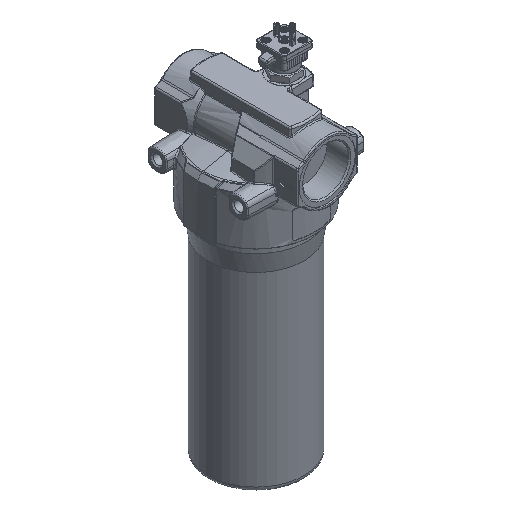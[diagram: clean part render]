
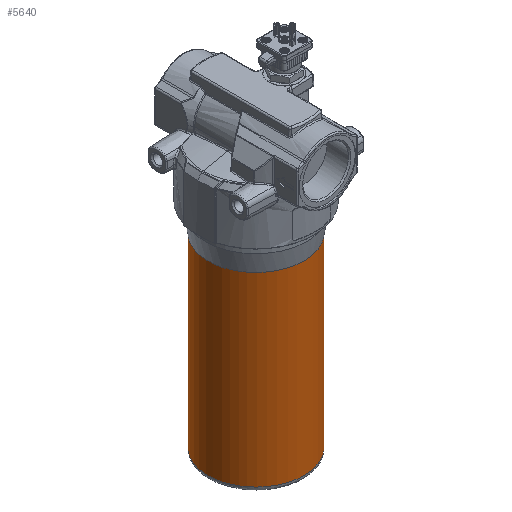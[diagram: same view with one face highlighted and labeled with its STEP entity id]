
A CAD part, isometric view. The second image highlights one B-rep face of the part: STEP entity #5640.
In plain terms, the highlighted free-form (B-spline) face has degree [2, 1] with [7, 2] control points.
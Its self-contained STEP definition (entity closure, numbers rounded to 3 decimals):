
#5553=CARTESIAN_POINT('V1380',(0.,47.5,
   -210.012));
#5554=VERTEX_POINT('V1380',#5553);
#5570=CARTESIAN_POINT('E2087',(0.,47.5,
   -210.012));
#5571=CARTESIAN_POINT('E2087',(82.272,47.5,
   -210.012));
#5572=CARTESIAN_POINT('E2087',(41.136,
   -23.75,-210.012));
#5573=CARTESIAN_POINT('E2087',(0.,-95.,
   -210.012));
#5574=CARTESIAN_POINT('E2087',(-41.136,
   -23.75,-210.012));
#5575=CARTESIAN_POINT('E2087',(-82.272,
   47.5,-210.012));
#5576=CARTESIAN_POINT('E2087',(0.,47.5,
   -210.012));
#5584=(BOUNDED_CURVE()B_SPLINE_CURVE(2,(#5570,#5571,#5572,#5573,
   #5574,#5575,#5576),.CIRCULAR_ARC.,.T.,.U.)
   B_SPLINE_CURVE_WITH_KNOTS((3,2,2,3),(0.0,17.46,
   34.921,52.381),.UNSPECIFIED.)CURVE()
   GEOMETRIC_REPRESENTATION_ITEM()RATIONAL_B_SPLINE_CURVE((1.0,
   0.5,1.0,0.5,1.0,0.5,1.0)
   )REPRESENTATION_ITEM('E2087'));
#5585=EDGE_CURVE('E2087',#5554,#5554,#5584,.T.);
#5590=CARTESIAN_POINT('F725',(0.,47.5,
   -210.012));
#5591=CARTESIAN_POINT('F725',(-82.272,47.5,
   -210.012));
#5592=CARTESIAN_POINT('F725',(-41.136,
   -23.75,-210.012));
#5593=CARTESIAN_POINT('F725',(0.,-95.,
   -210.012));
#5594=CARTESIAN_POINT('F725',(41.136,-23.75,
   -210.012));
#5595=CARTESIAN_POINT('F725',(82.272,47.5,
   -210.012));
#5596=CARTESIAN_POINT('F725',(0.,47.5,
   -210.012));
#5597=CARTESIAN_POINT('F725',(0.,47.5,
   -26.333));
#5598=CARTESIAN_POINT('F725',(-82.272,47.5,
   -26.333));
#5599=CARTESIAN_POINT('F725',(-41.136,
   -23.75,-26.333));
#5600=CARTESIAN_POINT('F725',(0.,-95.,
   -26.333));
#5601=CARTESIAN_POINT('F725',(41.136,-23.75,
   -26.333));
#5602=CARTESIAN_POINT('F725',(82.272,47.5,
   -26.333));
#5603=CARTESIAN_POINT('F725',(0.,47.5,
   -26.333));
#5611=(BOUNDED_SURFACE()B_SPLINE_SURFACE(2,1,((#5590,#5597),(
   #5591,#5598),(#5592,#5599),(#5593,#5600),(#5594,#5601),(
   #5595,#5602),(#5596,#5603)),.CYLINDRICAL_SURF.,.T.,.F.,.U.)
   B_SPLINE_SURFACE_WITH_KNOTS((3,2,2,3),(2,2),(0.0,
   0.896,1.792,2.687),(0.0,1.0),
   .UNSPECIFIED.)GEOMETRIC_REPRESENTATION_ITEM()
   RATIONAL_B_SPLINE_SURFACE(((1.0,1.0),(0.5,
   0.5),(1.0,1.0),(0.5,
   0.5),(1.0,1.0),(0.5,
   0.5),(1.0,1.0)))REPRESENTATION_ITEM('F725')
   SURFACE());
#5612=CARTESIAN_POINT('V1379',(0.,47.5,
   -26.333));
#5613=VERTEX_POINT('V1379',#5612);
#5614=CARTESIAN_POINT('E2086',(0.,47.5,
   -26.333));
#5615=CARTESIAN_POINT('E2086',(0.,47.5,
   -210.012));
#5616=QUASI_UNIFORM_CURVE('E2086',1,(#5614,#5615),.POLYLINE_FORM.,
   .F.,.U.);
#5617=EDGE_CURVE('E2086',#5613,#5554,#5616,.T.);
#5618=ORIENTED_EDGE('E2086',*,*,#5617,.T.);
#5619=ORIENTED_EDGE('F726',*,*,#5585,.F.);
#5620=ORIENTED_EDGE('E2086',*,*,#5617,.F.);
#5621=CARTESIAN_POINT('E2085',(0.,47.5,
   -26.333));
#5622=CARTESIAN_POINT('E2085',(82.272,47.5,
   -26.333));
#5623=CARTESIAN_POINT('E2085',(41.136,
   -23.75,-26.333));
#5624=CARTESIAN_POINT('E2085',(0.,-95.,
   -26.333));
#5625=CARTESIAN_POINT('E2085',(-41.136,
   -23.75,-26.333));
#5626=CARTESIAN_POINT('E2085',(-82.272,
   47.5,-26.333));
#5627=CARTESIAN_POINT('E2085',(0.,47.5,
   -26.333));
#5635=(BOUNDED_CURVE()B_SPLINE_CURVE(2,(#5621,#5622,#5623,#5624,
   #5625,#5626,#5627),.CIRCULAR_ARC.,.T.,.U.)
   B_SPLINE_CURVE_WITH_KNOTS((3,2,2,3),(0.0,0.896,
   1.792,2.687),.UNSPECIFIED.)CURVE()
   GEOMETRIC_REPRESENTATION_ITEM()RATIONAL_B_SPLINE_CURVE((1.0,
   0.5,1.0,0.5,1.0,0.5,1.0)
   )REPRESENTATION_ITEM('E2085'));
#5636=EDGE_CURVE('E2085',#5613,#5613,#5635,.T.);
#5637=ORIENTED_EDGE('E2085',*,*,#5636,.T.);
#5638=EDGE_LOOP('F725',(#5618,#5619,#5620,#5637));
#5639=FACE_OUTER_BOUND('F725',#5638,.T.);
#5640=ADVANCED_FACE('F725',(#5639),#5611,.T.);
